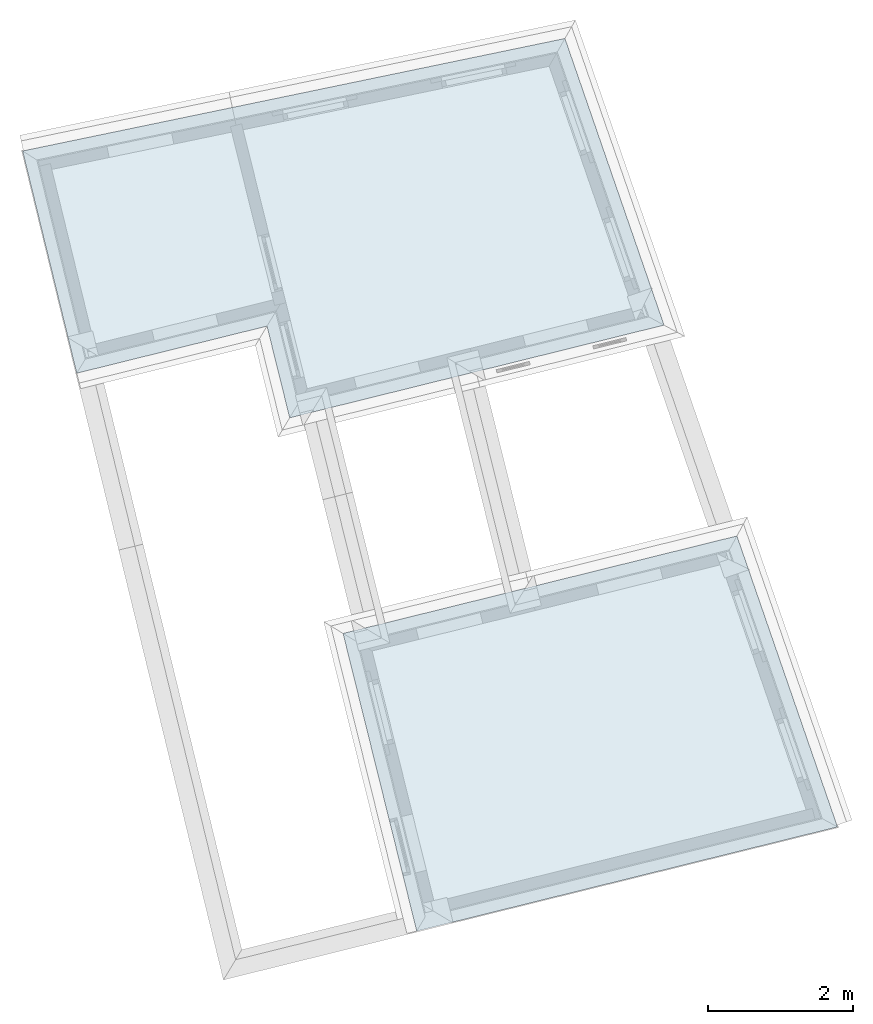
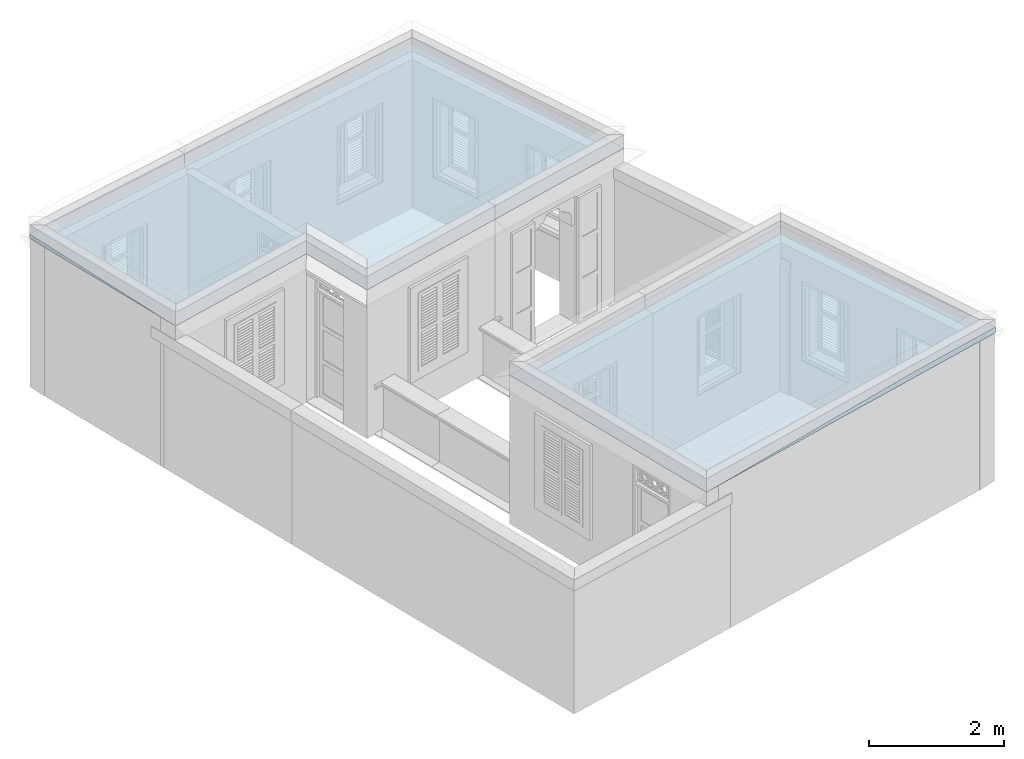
# One storey, part 15 of 15: 1 roof.
"""IFC4 building model written with IfcOpenShell, lengths in metres."""

from ifc_helpers import new_model, si_unit, frame, origin, origin_with_axes, place, context, subcontext, project, spatial, boolean, faceted_brep, element, save


model = new_model("IFC4")

# Units and contexts
model_context = context("Model", 3, world=origin_with_axes())
body_context = subcontext(model_context, "Body", "Model", "MODEL_VIEW")
ifc_project = project(units=[si_unit("PLANEANGLEUNIT", "RADIAN"), si_unit("MASSUNIT", "GRAM", prefix="KILO"), si_unit("FORCEUNIT", "NEWTON", prefix="KILO"), si_unit("LENGTHUNIT", "METRE"), si_unit("AREAUNIT", "SQUARE_METRE"), si_unit("VOLUMEUNIT", "CUBIC_METRE")], contexts=[model_context, model_context])

# Site, building, storey
site_placement = place(None, origin_with_axes())
site = spatial("IfcSite", under=ifc_project, at=site_placement, Name="Site plot-5", CompositionType="ELEMENT")
building_placement = place(None, origin_with_axes())
building = spatial("IfcBuilding", under=site, at=building_placement, Name="Building plot-5", CompositionType="ELEMENT")
storey_placement = place(None, frame((0.0, 0.0, 3.45), z_axis=(0.0, 0.0, 1.0), x_axis=(1.0, 0.0, 0.0)))
storey = spatial("IfcBuildingStorey", under=building, at=storey_placement, Name="plot-5 1", CompositionType="ELEMENT", Elevation=3.45)

# Roof
roof_placement = place(building_placement, origin())
element("IfcRoof", 1, at=roof_placement, inside=storey, Name="Roof", PredefinedType="FREEFORM", context=body_context, shape_type="CSG", body=[
    boolean("UNION", boolean("UNION", faceted_brep([(24.1123, 25.509745, 6.15), (18.691212, 24.16803, 6.15), (23.800977, 21.085781, 6.25549), (25.496505, 21.505423, 6.25549), (25.496505, 21.505423, 6.15), (19.70497, 20.072023, 6.15)], [[[0, 1, 2, 3]], [[4, 5, 1, 0]], [[3, 4, 0]], [[2, 1, 5]], [[2, 5, 4, 3]]]), faceted_brep([(15.024827, 27.750573, 6.15), (22.682541, 29.64585, 6.15), (21.745069, 32.357832, 6.221444), (14.279971, 30.809241, 6.228701), (14.279971, 30.809241, 6.15), (21.745069, 32.357832, 6.15)], [[[0, 1, 2, 3]], [[4, 5, 1, 0]], [[3, 4, 0]], [[2, 1, 5]], [[2, 5, 4, 3]]])), faceted_brep([(17.956326, 27.137277, 6.15), (23.108873, 28.412527, 6.15), (21.745069, 32.357832, 6.253935), (21.013913, 32.206158, 6.254646), (16.912365, 31.355316, 6.15), (21.745069, 32.357832, 6.15)], [[[0, 1, 2, 3]], [[4, 5, 1, 0]], [[3, 4, 0]], [[2, 1, 5]], [[2, 5, 4, 3]]])),
])

save(model, "model.ifc")
